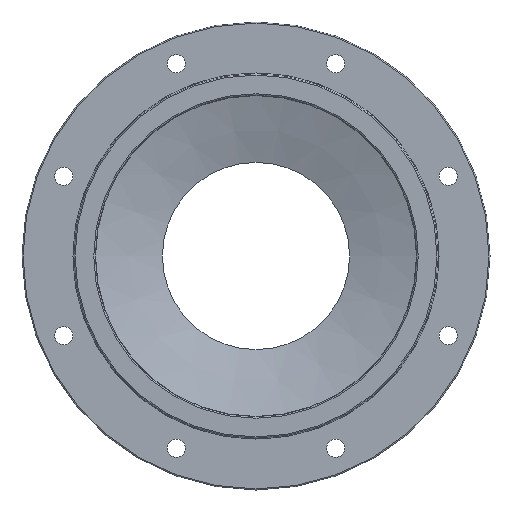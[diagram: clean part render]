
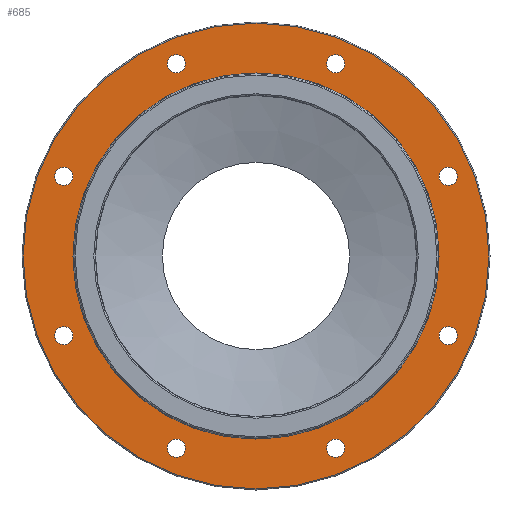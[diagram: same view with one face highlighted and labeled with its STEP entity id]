
A CAD part, front view. The second image highlights one B-rep face of the part: STEP entity #685.
In plain terms, the highlighted planar face has unit normal (0, -1, 0).
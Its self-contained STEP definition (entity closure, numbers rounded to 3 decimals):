
#105=CARTESIAN_POINT('',(-67.787,-45.5,184.776));
#106=VERTEX_POINT('',#105);
#107=CARTESIAN_POINT('',(-76.537,-45.5,184.776));
#108=DIRECTION('',(0.0,1.0,0.0));
#109=DIRECTION('',(1.0,0.0,0.0));
#110=AXIS2_PLACEMENT_3D('',#107,#108,#109);
#111=CIRCLE('',#110,8.75);
#112=EDGE_CURVE('',#106,#106,#111,.T.);
#154=CARTESIAN_POINT('',(85.287,-45.5,184.776));
#155=VERTEX_POINT('',#154);
#156=CARTESIAN_POINT('',(76.537,-45.5,184.776));
#157=DIRECTION('',(0.0,1.0,0.0));
#158=DIRECTION('',(1.0,0.0,0.0));
#159=AXIS2_PLACEMENT_3D('',#156,#157,#158);
#160=CIRCLE('',#159,8.75);
#161=EDGE_CURVE('',#155,#155,#160,.T.);
#203=CARTESIAN_POINT('',(85.287,-45.5,-184.776));
#204=VERTEX_POINT('',#203);
#205=CARTESIAN_POINT('',(76.537,-45.5,-184.776));
#206=DIRECTION('',(0.0,1.0,0.0));
#207=DIRECTION('',(1.0,0.0,0.0));
#208=AXIS2_PLACEMENT_3D('',#205,#206,#207);
#209=CIRCLE('',#208,8.75);
#210=EDGE_CURVE('',#204,#204,#209,.T.);
#252=CARTESIAN_POINT('',(-67.787,-45.5,-184.776));
#253=VERTEX_POINT('',#252);
#254=CARTESIAN_POINT('',(-76.537,-45.5,-184.776));
#255=DIRECTION('',(0.0,1.0,0.0));
#256=DIRECTION('',(1.0,0.0,0.0));
#257=AXIS2_PLACEMENT_3D('',#254,#255,#256);
#258=CIRCLE('',#257,8.75);
#259=EDGE_CURVE('',#253,#253,#258,.T.);
#301=CARTESIAN_POINT('',(-176.026,-45.5,76.537));
#302=VERTEX_POINT('',#301);
#303=CARTESIAN_POINT('',(-184.776,-45.5,76.537));
#304=DIRECTION('',(0.0,1.0,0.0));
#305=DIRECTION('',(1.0,0.0,0.0));
#306=AXIS2_PLACEMENT_3D('',#303,#304,#305);
#307=CIRCLE('',#306,8.75);
#308=EDGE_CURVE('',#302,#302,#307,.T.);
#350=CARTESIAN_POINT('',(-176.026,-45.5,-76.537));
#351=VERTEX_POINT('',#350);
#352=CARTESIAN_POINT('',(-184.776,-45.5,-76.537));
#353=DIRECTION('',(0.0,1.0,0.0));
#354=DIRECTION('',(1.0,0.0,0.0));
#355=AXIS2_PLACEMENT_3D('',#352,#353,#354);
#356=CIRCLE('',#355,8.75);
#357=EDGE_CURVE('',#351,#351,#356,.T.);
#399=CARTESIAN_POINT('',(193.526,-45.5,-76.537));
#400=VERTEX_POINT('',#399);
#401=CARTESIAN_POINT('',(184.776,-45.5,-76.537));
#402=DIRECTION('',(0.0,1.0,0.0));
#403=DIRECTION('',(1.0,0.0,0.0));
#404=AXIS2_PLACEMENT_3D('',#401,#402,#403);
#405=CIRCLE('',#404,8.75);
#406=EDGE_CURVE('',#400,#400,#405,.T.);
#448=CARTESIAN_POINT('',(193.526,-45.5,76.537));
#449=VERTEX_POINT('',#448);
#450=CARTESIAN_POINT('',(184.776,-45.5,76.537));
#451=DIRECTION('',(0.0,1.0,0.0));
#452=DIRECTION('',(1.0,0.0,0.0));
#453=AXIS2_PLACEMENT_3D('',#450,#451,#452);
#454=CIRCLE('',#453,8.75);
#455=EDGE_CURVE('',#449,#449,#454,.T.);
#627=CARTESIAN_POINT('',(-224.0,-45.5,0.0));
#628=VERTEX_POINT('',#627);
#629=CARTESIAN_POINT('',(0.0,-45.5,0.0));
#630=DIRECTION('',(0.0,1.0,0.0));
#631=DIRECTION('',(1.0,0.0,0.0));
#632=AXIS2_PLACEMENT_3D('',#629,#630,#631);
#633=CIRCLE('',#632,224.0);
#634=EDGE_CURVE('',#628,#628,#633,.T.);
#642=CARTESIAN_POINT('',(-200.0,-45.5,0.));
#643=DIRECTION('',(0.0,-1.0,0.0));
#644=DIRECTION('',(0.0,0.0,-1.0));
#645=AXIS2_PLACEMENT_3D('',#642,#643,#644);
#646=PLANE('',#645);
#647=ORIENTED_EDGE('',*,*,#634,.F.);
#648=EDGE_LOOP('',(#647));
#649=FACE_OUTER_BOUND('',#648,.T.);
#650=ORIENTED_EDGE('',*,*,#112,.T.);
#651=EDGE_LOOP('',(#650));
#652=FACE_BOUND('',#651,.T.);
#653=ORIENTED_EDGE('',*,*,#161,.T.);
#654=EDGE_LOOP('',(#653));
#655=FACE_BOUND('',#654,.T.);
#656=ORIENTED_EDGE('',*,*,#210,.T.);
#657=EDGE_LOOP('',(#656));
#658=FACE_BOUND('',#657,.T.);
#659=ORIENTED_EDGE('',*,*,#259,.T.);
#660=EDGE_LOOP('',(#659));
#661=FACE_BOUND('',#660,.T.);
#662=ORIENTED_EDGE('',*,*,#308,.T.);
#663=EDGE_LOOP('',(#662));
#664=FACE_BOUND('',#663,.T.);
#665=ORIENTED_EDGE('',*,*,#357,.T.);
#666=EDGE_LOOP('',(#665));
#667=FACE_BOUND('',#666,.T.);
#668=ORIENTED_EDGE('',*,*,#406,.T.);
#669=EDGE_LOOP('',(#668));
#670=FACE_BOUND('',#669,.T.);
#671=ORIENTED_EDGE('',*,*,#455,.T.);
#672=EDGE_LOOP('',(#671));
#673=FACE_BOUND('',#672,.T.);
#674=CARTESIAN_POINT('',(-176.0,-45.5,0.));
#675=VERTEX_POINT('',#674);
#676=CARTESIAN_POINT('',(0.0,-45.5,0.0));
#677=DIRECTION('',(0.0,-1.0,0.0));
#678=DIRECTION('',(1.0,0.0,0.0));
#679=AXIS2_PLACEMENT_3D('',#676,#677,#678);
#680=CIRCLE('',#679,176.0);
#681=EDGE_CURVE('',#675,#675,#680,.T.);
#682=ORIENTED_EDGE('',*,*,#681,.F.);
#683=EDGE_LOOP('',(#682));
#684=FACE_BOUND('',#683,.T.);
#685=ADVANCED_FACE('',(#649,#652,#655,#658,#661,#664,#667,#670,#673,#684),#646,.T.);
